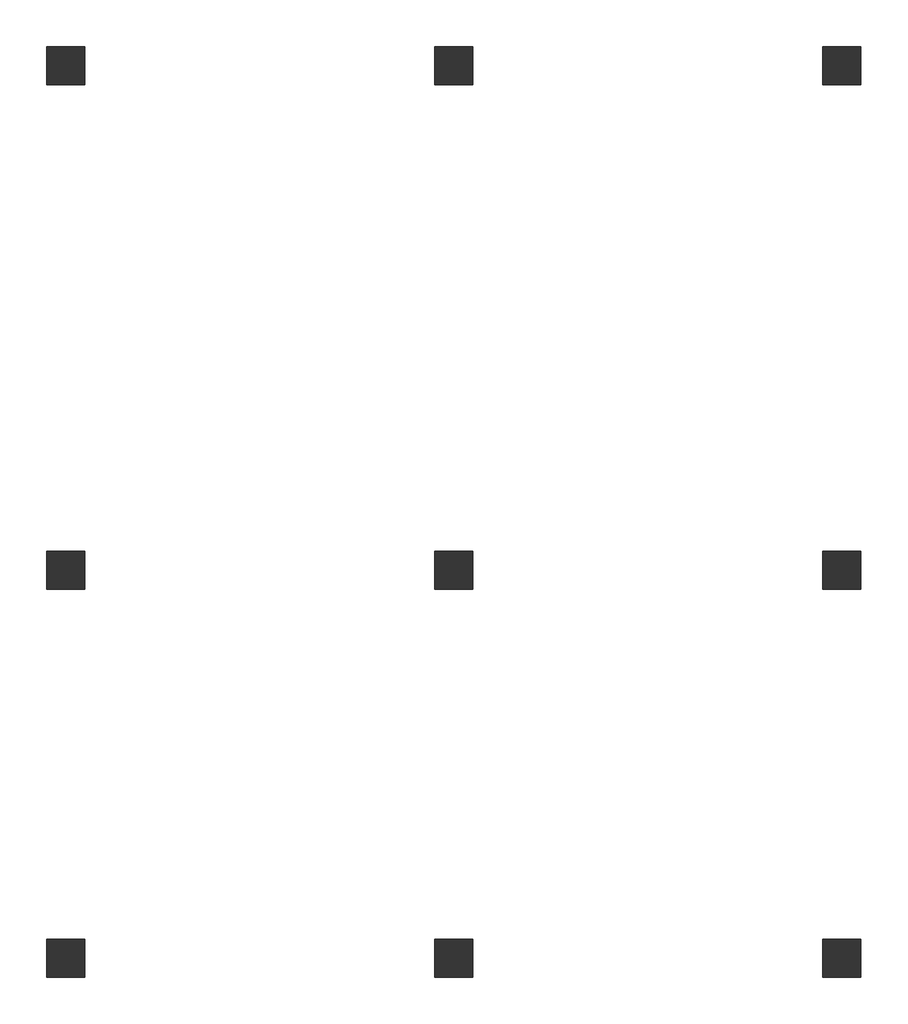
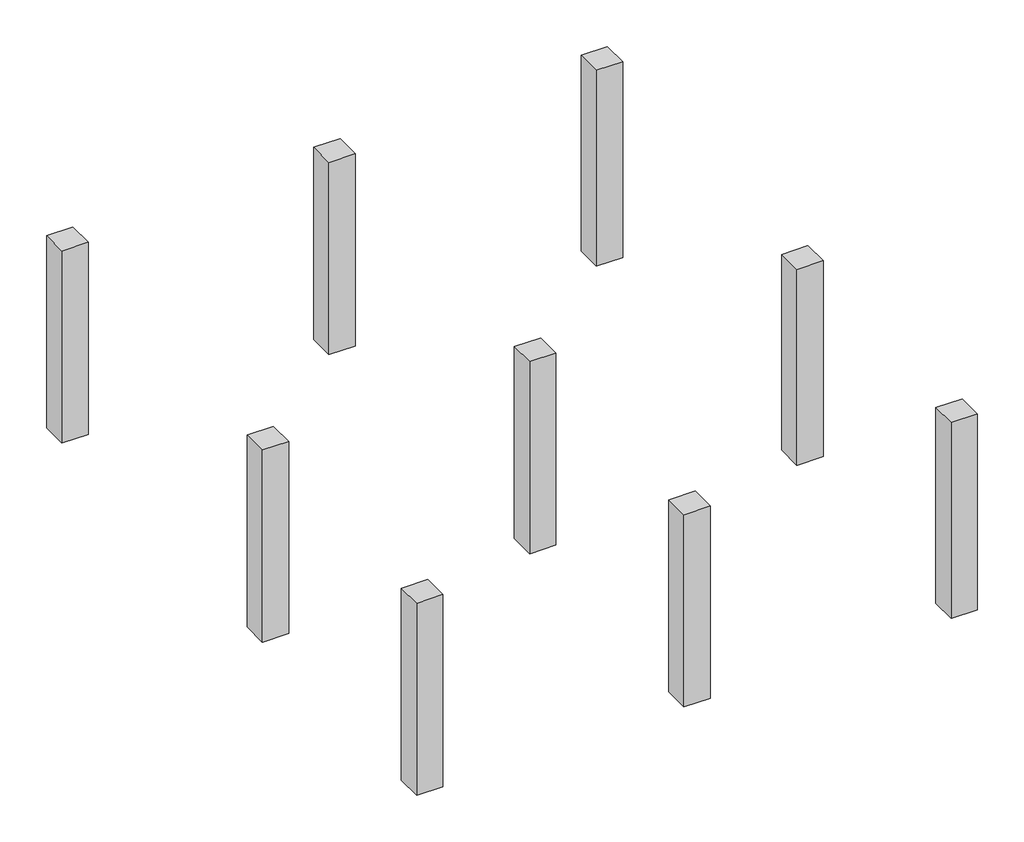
# One storey: 9 columns.
"""IFC4 building model written with IfcOpenShell, lengths in millimetres."""

from ifc_helpers import new_model, si_unit, frame, origin, place, context, project, spatial, polyline, outline, extrude, element, save

model = new_model("IFC4")

# Units and contexts
model_context = context("Model", 3, world=origin())
ifc_project = project(units=[si_unit("LENGTHUNIT", "METRE", prefix="MILLI")], contexts=[model_context])

# Site, building, storey
site = spatial("IfcSite", under=ifc_project)
building = spatial("IfcBuilding", under=site)
storey = spatial("IfcBuildingStorey", under=building, Name="T.O.F", Elevation=-1676.4)

# Columns
placement = place(None, origin())
element("IfcColumn", 1, ObjectType="M_Concrete-Square-Column : 600 x 600mm", at=placement, inside=storey, context=model_context, shape_type="SweptSolid", body=[
    extrude(outline(polyline([(-14241.0467956, -3072.3595363), (-14241.0467956, -2472.3595363), (-13641.0467956, -2472.3595363), (-13641.0467956, -3072.3595363), (-14241.0467956, -3072.3595363)])), frame((0.0, 0.0, -1676.4), z_axis=(0.0, 0.0, 1.0), x_axis=(1.0, 0.0, 0.0)), (0.0, 0.0, 1.0), 4724.4),
])
element("IfcColumn", 2, ObjectType="M_Concrete-Square-Column : 600 x 600mm", at=placement, inside=storey, context=model_context, shape_type="SweptSolid", body=[
    extrude(outline(polyline([(-14241.0467956, 3023.6404637), (-14241.0467956, 3623.6404637), (-13641.0467956, 3623.6404637), (-13641.0467956, 3023.6404637), (-14241.0467956, 3023.6404637)])), frame((0.0, 0.0, -1676.4), z_axis=(0.0, 0.0, 1.0), x_axis=(1.0, 0.0, 0.0)), (0.0, 0.0, 1.0), 4724.4),
])
element("IfcColumn", 3, ObjectType="M_Concrete-Square-Column : 600 x 600mm", at=placement, inside=storey, context=model_context, shape_type="SweptSolid", body=[
    extrude(outline(polyline([(-14241.0467956, 10948.6404637), (-14241.0467956, 11548.6404637), (-13641.0467956, 11548.6404637), (-13641.0467956, 10948.6404637), (-14241.0467956, 10948.6404637)])), frame((0.0, 0.0, -1676.4), z_axis=(0.0, 0.0, 1.0), x_axis=(1.0, 0.0, 0.0)), (0.0, 0.0, 1.0), 4724.4),
])
element("IfcColumn", 4, ObjectType="M_Concrete-Square-Column : 600 x 600mm", at=placement, inside=storey, context=model_context, shape_type="SweptSolid", body=[
    extrude(outline(polyline([(-20337.0467956, -3072.3595363), (-20337.0467956, -2472.3595363), (-19737.0467956, -2472.3595363), (-19737.0467956, -3072.3595363), (-20337.0467956, -3072.3595363)])), frame((0.0, 0.0, -1676.4), z_axis=(0.0, 0.0, 1.0), x_axis=(1.0, 0.0, 0.0)), (0.0, 0.0, 1.0), 4634.4),
])
element("IfcColumn", 5, ObjectType="M_Concrete-Square-Column : 600 x 600mm", at=placement, inside=storey, context=model_context, shape_type="SweptSolid", body=[
    extrude(outline(polyline([(-20337.0467956, 3023.6404637), (-20337.0467956, 3623.6404637), (-19737.0467956, 3623.6404637), (-19737.0467956, 3023.6404637), (-20337.0467956, 3023.6404637)])), frame((0.0, 0.0, -1676.4), z_axis=(0.0, 0.0, 1.0), x_axis=(1.0, 0.0, 0.0)), (0.0, 0.0, 1.0), 4634.4),
])
element("IfcColumn", 6, ObjectType="M_Concrete-Square-Column : 600 x 600mm", at=placement, inside=storey, context=model_context, shape_type="SweptSolid", body=[
    extrude(outline(polyline([(-20337.0467956, 10948.6404637), (-20337.0467956, 11548.6404637), (-19737.0467956, 11548.6404637), (-19737.0467956, 10948.6404637), (-20337.0467956, 10948.6404637)])), frame((0.0, 0.0, -1676.4), z_axis=(0.0, 0.0, 1.0), x_axis=(1.0, 0.0, 0.0)), (0.0, 0.0, 1.0), 4634.4),
])
element("IfcColumn", 7, ObjectType="M_Concrete-Square-Column : 600 x 600mm", at=placement, inside=storey, context=model_context, shape_type="SweptSolid", body=[
    extrude(outline(polyline([(-26433.0467956, -3072.3595363), (-26433.0467956, -2472.3595363), (-25833.0467956, -2472.3595363), (-25833.0467956, -3072.3595363), (-26433.0467956, -3072.3595363)])), frame((0.0, 0.0, -1676.4), z_axis=(0.0, 0.0, 1.0), x_axis=(1.0, 0.0, 0.0)), (0.0, 0.0, 1.0), 4634.4),
])
element("IfcColumn", 8, ObjectType="M_Concrete-Square-Column : 600 x 600mm", at=placement, inside=storey, context=model_context, shape_type="SweptSolid", body=[
    extrude(outline(polyline([(-26433.0467956, 3023.6404637), (-26433.0467956, 3623.6404637), (-25833.0467956, 3623.6404637), (-25833.0467956, 3023.6404637), (-26433.0467956, 3023.6404637)])), frame((0.0, 0.0, -1676.4), z_axis=(0.0, 0.0, 1.0), x_axis=(1.0, 0.0, 0.0)), (0.0, 0.0, 1.0), 4634.4),
])
element("IfcColumn", 9, ObjectType="M_Concrete-Square-Column : 600 x 600mm", at=placement, inside=storey, context=model_context, shape_type="SweptSolid", body=[
    extrude(outline(polyline([(-26433.0467956, 10948.6404637), (-26433.0467956, 11548.6404637), (-25833.0467956, 11548.6404637), (-25833.0467956, 10948.6404637), (-26433.0467956, 10948.6404637)])), frame((0.0, 0.0, -1676.4), z_axis=(0.0, 0.0, 1.0), x_axis=(1.0, 0.0, 0.0)), (0.0, 0.0, 1.0), 4634.4),
])

save(model, "model.ifc")
